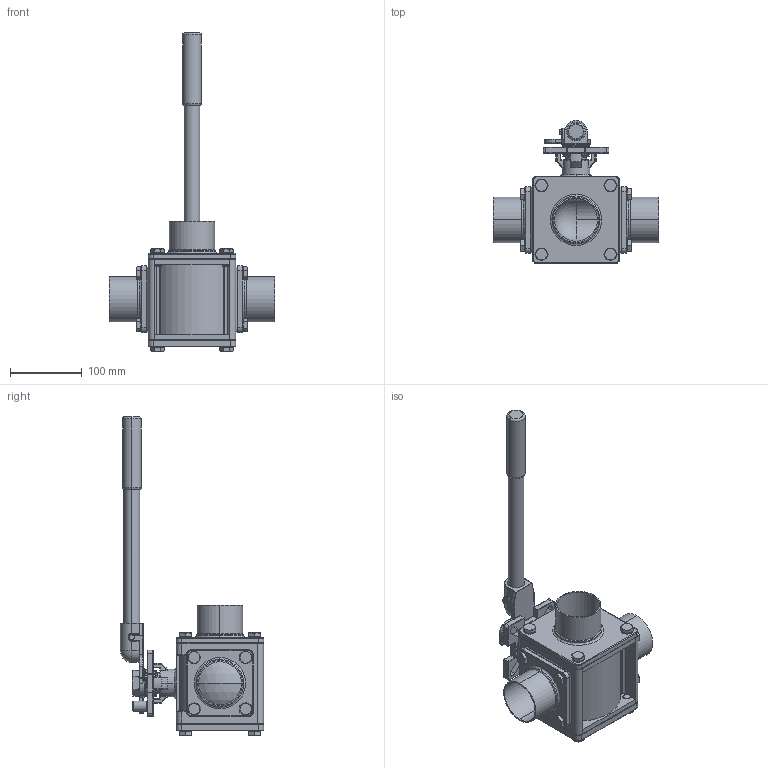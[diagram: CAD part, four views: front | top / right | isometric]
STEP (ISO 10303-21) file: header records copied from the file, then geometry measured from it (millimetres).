
FILE_DESCRIPTION (( 'STEP AP203' ), '1' );
FILE_NAME ('E93WWW-62.5.STEP', '2019-07-02T02:22:41', ( '' ), ( '' ), 'SwSTEP 2.0', 'SolidWorks 2014', '' );
FILE_SCHEMA (( 'CONFIG_CONTROL_DESIGN' ));
Length unit declared in the file: millimetre
Products named in the file (27): 1.3WAY-BODY2.5; 20.SEAT BACK2.5; 15.SPRING WASHER2.0-2.5; 11.STOP PIN2.5; 17.LOCKING TAB2.5; 2.3WAY-CAP-W-2.5S; 16.BOLT2.5; 4.SEAT1-2.5; 22.SEAT-R-2.5; 18.THINNER NUT2.5; 6.THRUST WASHER2.5; 10.BEVEL WASHER2.5; 2.3WAY-CAP-W-2.5B; E93WWW-62.5; 14.HANDLE2.5-4.0-3; 9.RING2.5; 7.O-RING2.5; 14.HANDLE2.5-1; 22.SEAT-L-2.5; 19.3WAY-CAP2.5; 12.3WAY-NUT2.5; 8.STEM PACKING2.5; 21.PLAIN WASHER2.5; 13.STEM2.5; 5.GASKET2.5; 3.3WAY-BALL-2.5-L; 14.HANDLE2.5-2
Assembly tree (60 placements, depth 2):
  E93WWW-62.5
    1.3WAY-BODY2.5
    13.STEM2.5
    6.THRUST WASHER2.5
    7.O-RING2.5
    3.3WAY-BALL-2.5-L
    22.SEAT-L-2.5
    22.SEAT-R-2.5
    4.SEAT1-2.5  x2
    20.SEAT BACK2.5
    5.GASKET2.5  x2
    19.3WAY-CAP2.5
    15.SPRING WASHER2.0-2.5  x16
    16.BOLT2.5  x16
    8.STEM PACKING2.5
    9.RING2.5
    10.BEVEL WASHER2.5  x2
    17.LOCKING TAB2.5
    18.THINNER NUT2.5
    21.PLAIN WASHER2.5
    14.HANDLE2.5-1
    14.HANDLE2.5-2
    14.HANDLE2.5-4.0-3
    12.3WAY-NUT2.5
    11.STOP PIN2.5
    2.3WAY-CAP-W-2.5B
    2.3WAY-CAP-W-2.5S  x2
Bounding box: 231 x 199.86 x 444.7 mm (x, y, z)
Volume: 1745835.9 mm3; surface area: 562756.3 mm2
Topology: 61 solids, 61 shells, 1532 faces, 3451 edges, 2041 vertices
Faces by surface type: cylinder 568, plane 415, cone 252, torus 185, sphere 60, bspline 52
Entity records: 37165 total; most frequent: CARTESIAN_POINT 8769, DIRECTION 5654, ORIENTED_EDGE 4874, EDGE_CURVE 2437, AXIS2_PLACEMENT_3D 2386, VERTEX_POINT 1444, CIRCLE 1308, EDGE_LOOP 1179
